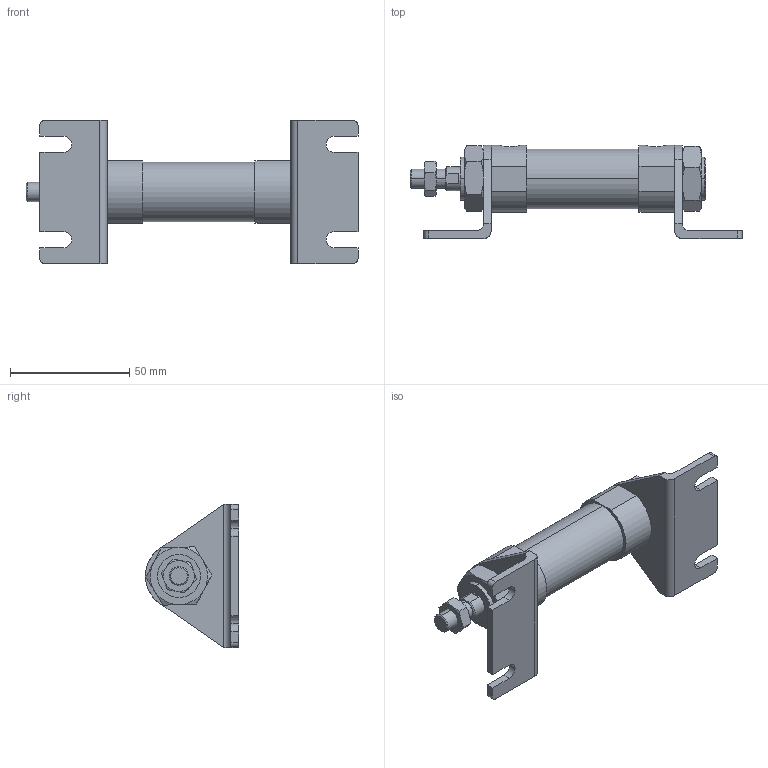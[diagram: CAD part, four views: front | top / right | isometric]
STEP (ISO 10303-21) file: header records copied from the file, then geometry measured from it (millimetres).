
FILE_DESCRIPTION (( 'STEP AP203' ), '1' );
FILE_NAME ('J#2-20-15-L.STEP', '2016-03-10T00:48:06', ( '' ), ( '' ), 'SwSTEP 2.0', 'SolidWorks 2014', '' );
FILE_SCHEMA (( 'CONFIG_CONTROL_DESIGN' ));
Length unit declared in the file: millimetre
Products named in the file (5): J#2-20-L; J#2-20-15-L; J#2-20-15
Assembly tree (6 placements, depth 2):
  J#2-20-15-L
    J#2-20-15
    (unnamed)
    (unnamed)  x2
    J#2-20-L  x2
Bounding box: 139.2 x 39 x 60 mm (x, y, z)
Volume: 69343.4 mm3; surface area: 26461.7 mm2
Topology: 6 solids, 6 shells, 168 faces, 392 edges, 246 vertices
Faces by surface type: plane 74, cylinder 52, torus 36, cone 6
Entity records: 4278 total; most frequent: CARTESIAN_POINT 1025, DIRECTION 577, ORIENTED_EDGE 542, EDGE_CURVE 271, AXIS2_PLACEMENT_3D 234, VERTEX_POINT 170, EDGE_LOOP 135, FACE_OUTER_BOUND 119
